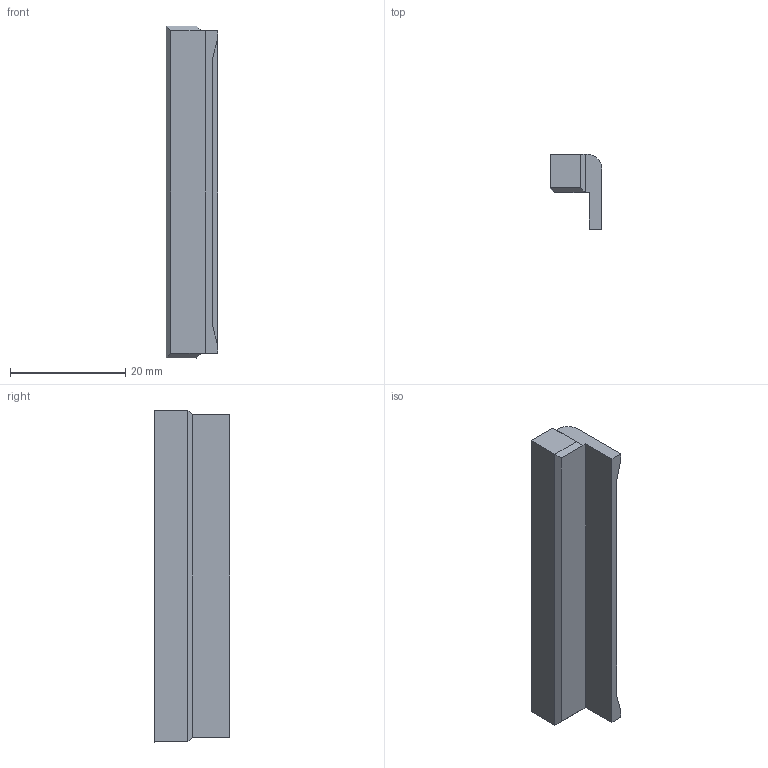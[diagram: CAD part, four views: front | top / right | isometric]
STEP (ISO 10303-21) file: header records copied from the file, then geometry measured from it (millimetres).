
FILE_DESCRIPTION( ( '' ), ' ' );
FILE_NAME( '/vol/tmp/translate-1924662515888757410/58324ffd6b884e10540a9d10.step', '2016-11-21T01:38:05', ( '' ), ( '' ), ' ', ' ', ' ' );
FILE_SCHEMA( ( 'AUTOMOTIVE_DESIGN { 1 0 10303 214 1 1 1 1 }' ) );
Length unit declared in the file: metre
Products named in the file (1): GPIO Cap
Bounding box: 9 x 13 x 57.5 mm (x, y, z)
Volume: 4015.3 mm3; surface area: 2541.6 mm2
Topology: 1 solids, 1 shells, 20 faces, 50 edges, 32 vertices
Faces by surface type: plane 19, cylinder 1
Entity records: 760 total; most frequent: CARTESIAN_POINT 103, ORIENTED_EDGE 100, DIRECTION 94, EDGE_CURVE 50, LINE 48, VECTOR 48, VERTEX_POINT 32, AXIS2_PLACEMENT_3D 23
